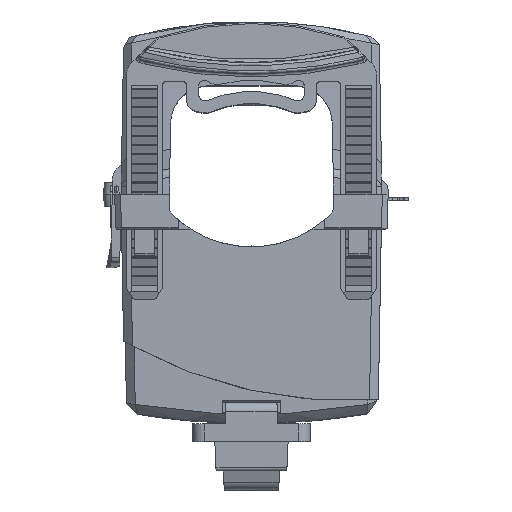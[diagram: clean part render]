
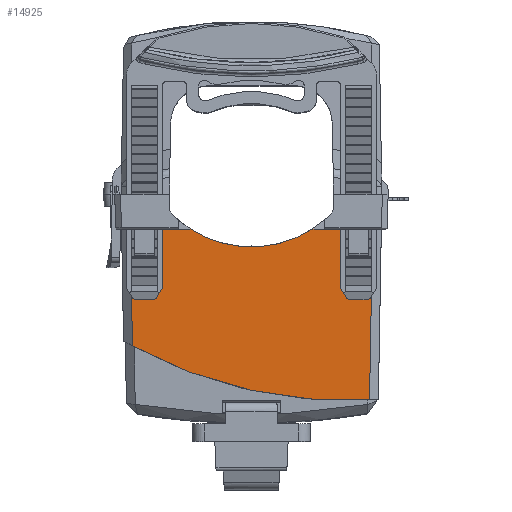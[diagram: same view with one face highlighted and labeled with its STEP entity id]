
A CAD part, top view. The second image highlights one B-rep face of the part: STEP entity #14925.
In plain terms, the highlighted planar face has unit normal (0, -0.018, 1) as drawn and (0, 0.017, 1) by its records, which use the part's own axes.
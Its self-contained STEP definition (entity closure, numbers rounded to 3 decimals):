
#122 = ORIENTED_EDGE ( 'NONE', *, *, #52226, .T. ) ;
#926 = CARTESIAN_POINT ( 'NONE',  ( -20.138, 35.028, 21.639 ) ) ;
#1214 = ORIENTED_EDGE ( 'NONE', *, *, #16013, .T. ) ;
#1922 = VECTOR ( 'NONE', #44619, 1000. ) ;
#1989 = LINE ( 'NONE', #39445, #1922 ) ;
#2197 = CARTESIAN_POINT ( 'NONE',  ( -22.25, 6., 22.145 ) ) ;
#3687 = ORIENTED_EDGE ( 'NONE', *, *, #52828, .T. ) ;
#3915 = DIRECTION ( 'NONE',  ( -0.017, 1., -0.017 ) ) ;
#4027 = CARTESIAN_POINT ( 'NONE',  ( -10.309, 6., 22.145 ) ) ;
#4171 = EDGE_CURVE ( 'NONE', #58598, #16000, #14773, .T. ) ;
#7461 = VERTEX_POINT ( 'NONE', #62046 ) ;
#8091 = CARTESIAN_POINT ( 'NONE',  ( 10.309, 6., 22.145 ) ) ;
#8147 = CARTESIAN_POINT ( 'NONE',  ( -10.309, 6., 22.145 ) ) ;
#8444 = CARTESIAN_POINT ( 'NONE',  ( 3.836, 10.116, 22.073 ) ) ;
#8455 = CARTESIAN_POINT ( 'NONE',  ( -12.5, 6., 22.145 ) ) ;
#8966 = CARTESIAN_POINT ( 'NONE',  ( -3.836, 10.116, 22.073 ) ) ;
#9969 = DIRECTION ( 'NONE',  ( 1., 0., 0. ) ) ;
#10093 = ORIENTED_EDGE ( 'NONE', *, *, #25970, .T. ) ;
#10403 = CARTESIAN_POINT ( 'NONE',  ( -22.25, 6., 22.145 ) ) ;
#11115 = ORIENTED_EDGE ( 'NONE', *, *, #53243, .T. ) ;
#11129 = VECTOR ( 'NONE', #65946, 1000. ) ;
#11394 = LINE ( 'NONE', #50247, #11129 ) ;
#12332 = VERTEX_POINT ( 'NONE', #31773 ) ;
#12537 = DIRECTION ( 'NONE',  ( 1., 0., 0. ) ) ;
#13074 = EDGE_CURVE ( 'NONE', #51505, #19867, #47009, .T. ) ;
#14603 = VECTOR ( 'NONE', #41533, 1000. ) ;
#14661 = CARTESIAN_POINT ( 'NONE',  ( -22.25, 6., 22.145 ) ) ;
#14773 = LINE ( 'NONE', #36546, #14603 ) ;
#14925 = ADVANCED_FACE ( 'NONE', ( #28834 ), #47601, .T. ) ;
#15825 = VECTOR ( 'NONE', #17899, 1000. ) ;
#15970 = CARTESIAN_POINT ( 'NONE',  ( 20.298, 25.857, 21.799 ) ) ;
#16000 = VERTEX_POINT ( 'NONE', #8455 ) ;
#16013 = EDGE_CURVE ( 'NONE', #47606, #18031, #66367, .T. ) ;
#16382 = LINE ( 'NONE', #19676, #15825 ) ;
#17899 = DIRECTION ( 'NONE',  ( 1., 0., 0. ) ) ;
#17941 = ORIENTED_EDGE ( 'NONE', *, *, #19134, .T. ) ;
#18031 = VERTEX_POINT ( 'NONE', #19764 ) ;
#19134 = EDGE_CURVE ( 'NONE', #33407, #57874, #51992, .T. ) ;
#19676 = CARTESIAN_POINT ( 'NONE',  ( -22.25, 6., 22.145 ) ) ;
#19764 = CARTESIAN_POINT ( 'NONE',  ( 10.309, 6., 22.145 ) ) ;
#19800 = DIRECTION ( 'NONE',  ( 1., 0., 0. ) ) ;
#19867 = VERTEX_POINT ( 'NONE', #45539 ) ;
#21255 = ORIENTED_EDGE ( 'NONE', *, *, #61100, .T. ) ;
#23804 = AXIS2_PLACEMENT_3D ( 'NONE', #44402, #47456, #47385 ) ;
#25916 = ORIENTED_EDGE ( 'NONE', *, *, #33421, .T. ) ;
#25970 = EDGE_CURVE ( 'NONE', #67105, #57754, #16382, .T. ) ;
#26777 = CARTESIAN_POINT ( 'NONE',  ( -16.825, 6., 22.145 ) ) ;
#28834 = FACE_OUTER_BOUND ( 'NONE', #33886, .T. ) ;
#29490 = CARTESIAN_POINT ( 'NONE',  ( -20.645, 6., 22.145 ) ) ;
#29641 = DIRECTION ( 'NONE',  ( -0.017, -1., 0.017 ) ) ;
#31387 = CARTESIAN_POINT ( 'NONE',  ( 19.675, 6., 22.145 ) ) ;
#31614 = CARTESIAN_POINT ( 'NONE',  ( -5.971, 35.837, 21.624 ) ) ;
#31773 = CARTESIAN_POINT ( 'NONE',  ( 20.298, 25.857, 21.799 ) ) ;
#33407 = VERTEX_POINT ( 'NONE', #31387 ) ;
#33421 = EDGE_CURVE ( 'NONE', #12332, #7461, #66530, .T. ) ;
#33886 = EDGE_LOOP ( 'NONE', ( #59364, #62576, #63613, #122, #1214, #3687, #10093, #11115, #17941, #21255, #25916, #35138 ) ) ;
#34843 = CARTESIAN_POINT ( 'NONE',  ( -20.75, -0.026, 22.25 ) ) ;
#35138 = ORIENTED_EDGE ( 'NONE', *, *, #61124, .T. ) ;
#36546 = CARTESIAN_POINT ( 'NONE',  ( -22.25, 6., 22.145 ) ) ;
#36731 = CARTESIAN_POINT ( 'NONE',  ( -22.25, 6., 22.145 ) ) ;
#37382 = DIRECTION ( 'NONE',  ( 1., 0., 0. ) ) ;
#39445 = CARTESIAN_POINT ( 'NONE',  ( -22.25, 6., 22.145 ) ) ;
#41533 = DIRECTION ( 'NONE',  ( 1., 0., 0. ) ) ;
#44402 = CARTESIAN_POINT ( 'NONE',  ( -22.25, 0., 22.25 ) ) ;
#44619 = DIRECTION ( 'NONE',  ( 1., 0., 0. ) ) ;
#45539 = CARTESIAN_POINT ( 'NONE',  ( -19.675, 6., 22.145 ) ) ;
#46546 = VECTOR ( 'NONE', #37382, 1000. ) ;
#47009 = LINE ( 'NONE', #36731, #46546 ) ;
#47385 = DIRECTION ( 'NONE',  ( 0., -1., 0.017 ) ) ;
#47456 = DIRECTION ( 'NONE',  ( 0., 0.017, 1. ) ) ;
#47601 = PLANE ( 'NONE',  #23804 ) ;
#47606 = VERTEX_POINT ( 'NONE', #4027 ) ;
#47846 = CARTESIAN_POINT ( 'NONE',  ( 12.5, 6., 22.145 ) ) ;
#49843 = LINE ( 'NONE', #14661, #50938 ) ;
#50247 = CARTESIAN_POINT ( 'NONE',  ( -22.25, 6., 22.145 ) ) ;
#50938 = VECTOR ( 'NONE', #19800, 1000. ) ;
#51505 = VERTEX_POINT ( 'NONE', #29490 ) ;
#51528 = EDGE_CURVE ( 'NONE', #19867, #58598, #11394, .T. ) ;
#51865 = VECTOR ( 'NONE', #9969, 1000. ) ;
#51992 = LINE ( 'NONE', #10403, #51865 ) ;
#52226 = EDGE_CURVE ( 'NONE', #16000, #47606, #49843, .T. ) ;
#52828 = EDGE_CURVE ( 'NONE', #18031, #67105, #1989, .T. ) ;
#53243 = EDGE_CURVE ( 'NONE', #57754, #33407, #65713, .T. ) ;
#57341 = CARTESIAN_POINT ( 'NONE',  ( 7.867, 32.698, 21.679 ) ) ;
#57754 = VERTEX_POINT ( 'NONE', #64270 ) ;
#57874 = VERTEX_POINT ( 'NONE', #65175 ) ;
#58598 = VERTEX_POINT ( 'NONE', #26777 ) ;
#58850 = LINE ( 'NONE', #34843, #59117 ) ;
#59117 = VECTOR ( 'NONE', #29641, 1000. ) ;
#59364 = ORIENTED_EDGE ( 'NONE', *, *, #13074, .T. ) ;
#59465 = VECTOR ( 'NONE', #3915, 1000. ) ;
#59600 = LINE ( 'NONE', #65874, #59465 ) ;
#61100 = EDGE_CURVE ( 'NONE', #57874, #12332, #59600, .T. ) ;
#61124 = EDGE_CURVE ( 'NONE', #7461, #51505, #58850, .T. ) ;
#62046 = CARTESIAN_POINT ( 'NONE',  ( -20.138, 35.028, 21.639 ) ) ;
#62576 = ORIENTED_EDGE ( 'NONE', *, *, #51528, .T. ) ;
#63613 = ORIENTED_EDGE ( 'NONE', *, *, #4171, .T. ) ;
#64270 = CARTESIAN_POINT ( 'NONE',  ( 16.825, 6., 22.145 ) ) ;
#65175 = CARTESIAN_POINT ( 'NONE',  ( 20.645, 6., 22.145 ) ) ;
#65631 = VECTOR ( 'NONE', #12537, 1000. ) ;
#65713 = LINE ( 'NONE', #2197, #65631 ) ;
#65874 = CARTESIAN_POINT ( 'NONE',  ( 20.736, 0.75, 22.237 ) ) ;
#65946 = DIRECTION ( 'NONE',  ( 1., 0., 0. ) ) ;
#66367 =( BOUNDED_CURVE ( )  B_SPLINE_CURVE ( 3, ( #8147, #8966, #8444, #8091 ),
 .UNSPECIFIED., .F., .F. ) 
 B_SPLINE_CURVE_WITH_KNOTS ( ( 4, 4 ),
 ( 5.717, 6.85 ),
 .UNSPECIFIED. ) 
 CURVE ( )  GEOMETRIC_REPRESENTATION_ITEM ( )  RATIONAL_B_SPLINE_CURVE ( ( 1., 0.896, 0.896, 1. ) ) 
 REPRESENTATION_ITEM ( '' )  );
#66530 =( BOUNDED_CURVE ( )  B_SPLINE_CURVE ( 3, ( #15970, #57341, #31614, #926 ),
 .UNSPECIFIED., .F., .F. ) 
 B_SPLINE_CURVE_WITH_KNOTS ( ( 4, 4 ),
 ( 5.78, 6.34 ),
 .UNSPECIFIED. ) 
 CURVE ( )  GEOMETRIC_REPRESENTATION_ITEM ( )  RATIONAL_B_SPLINE_CURVE ( ( 1., 0.974, 0.974, 1. ) ) 
 REPRESENTATION_ITEM ( '' )  );
#67105 = VERTEX_POINT ( 'NONE', #47846 ) ;
